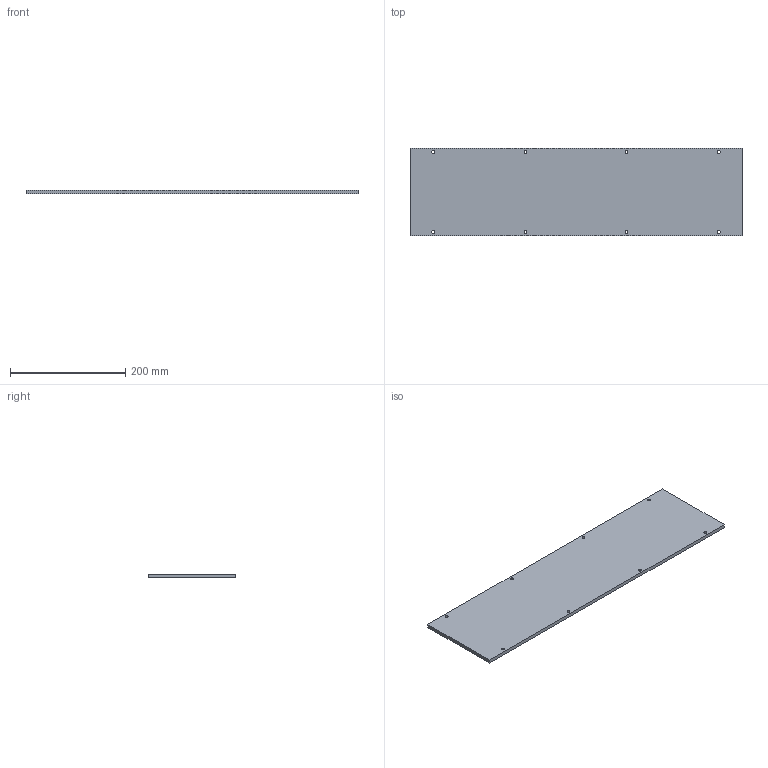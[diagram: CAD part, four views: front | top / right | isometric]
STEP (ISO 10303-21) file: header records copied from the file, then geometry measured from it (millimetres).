
FILE_DESCRIPTION(/* description */ (''),/* implementation_level */ '2;1');
FILE_NAME(/* name */ 'C:/Users/David Florian/Desktop/Cyber-Scooter-Step-Files/12-Board-Top-and-Bottom.step',/* time_stamp */ '2020-12-14T22:19:38-06:00',/* author */ (''),/* organization */ (''),/* preprocessor_version */ 'ST-DEVELOPER v18.1',/* originating_system */ 'Autodesk Translation Framework v9.7.1.1290',/* authorisation */ '');
FILE_SCHEMA (('AUTOMOTIVE_DESIGN { 1 0 10303 214 3 1 1 }'));
Length unit declared in the file: millimetre
Products named in the file (1): Deck-Top-Bottom-Assembly
Bounding box: 575 x 151.2 x 6.35 mm (x, y, z)
Volume: 551071.5 mm3; surface area: 183586.5 mm2
Topology: 1 solids, 1 shells, 14 faces, 36 edges, 24 vertices
Faces by surface type: cylinder 8, plane 6
Full cylindrical faces by diameter (mm): 5 x8
Entity records: 501 total; most frequent: DIRECTION 82, CARTESIAN_POINT 75, ORIENTED_EDGE 72, EDGE_CURVE 36, AXIS2_PLACEMENT_3D 31, EDGE_LOOP 30, VERTEX_POINT 24, LINE 20
